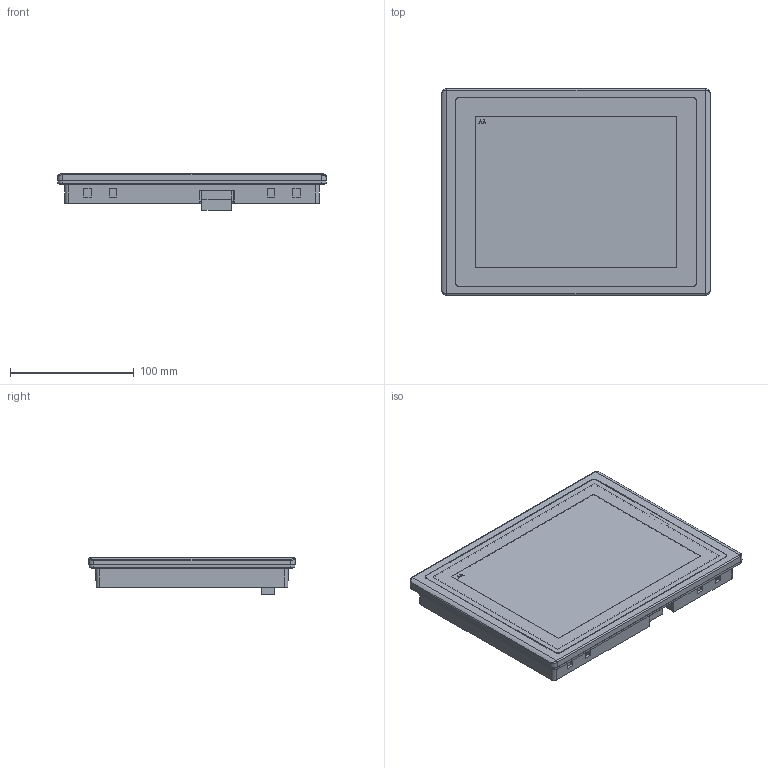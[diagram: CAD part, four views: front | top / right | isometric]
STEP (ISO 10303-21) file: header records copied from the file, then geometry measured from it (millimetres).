
FILE_DESCRIPTION((''),'2;1');
FILE_NAME('DMT80600T080-15WT','2020-01-07T',('Administrator'),(''),'PRO/ENGINEER BY PARAMETRIC TECHNOLOGY CORPORATION, 2011310','PRO/ENGINEER BY PARAMETRIC TECHNOLOGY CORPORATION, 2011310','');
FILE_SCHEMA(('CONFIG_CONTROL_DESIGN','SHAPE_APPEARANCE_LAYERS_GROUPS'));
Length unit declared in the file: millimetre
Products named in the file (1): DMT80600T080-15WT
Bounding box: 217.4 x 166.8 x 29.9 mm (x, y, z)
Surface area: 402611.6 mm2 (no closed solid volume)
Topology: 0 solids, 8 shells, 1179 faces, 3334 edges, 2213 vertices
Faces by surface type: plane 879, cylinder 252, cone 24, bspline 18, sphere 4, torus 2
Entity records: 42637 total; most frequent: CARTESIAN_POINT 8248, ORIENTED_EDGE 6660, DIRECTION 5971, EDGE_CURVE 3330, VECTOR 2687, LINE 2687, VERTEX_POINT 2213, AXIS2_PLACEMENT_3D 1642
